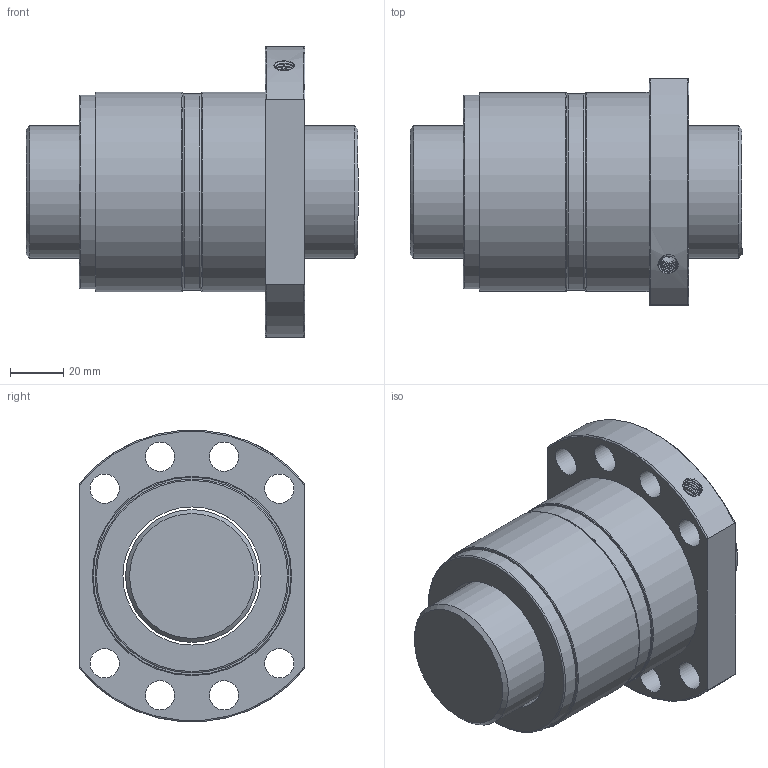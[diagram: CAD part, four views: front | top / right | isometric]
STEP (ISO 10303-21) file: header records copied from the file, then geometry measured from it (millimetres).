
FILE_DESCRIPTION(/* description */ ('Unknown','CAx-IF Rec.Pracs.---Representation and Presentation of Product Manufacturing Information (PMI)---4.0---2014-10-13','CAx-IF Rec.Pracs.---3D Tessellated Geometry---0.4---2014-09-14','2;1'),/* implementation_level */ '2;1');
FILE_NAME(/* name */ 'DFS05005',/* time_stamp */ '2020-12-08T12:00:33+08:00',/* author */ ('Unknown'),/* organization */ ('Unknown'),/* preprocessor_version */ 'ST-DEVELOPER v16.7',/* originating_system */ 'Solid Edge',/* authorisation */ 'Unknown');
FILE_SCHEMA (('AP242_MANAGED_MODEL_BASED_3D_ENGINEERING_MIM_LF { 1 0 10303 442 1 1 4 }'));
Length unit declared in the file: millimetre
Products named in the file (1): DFS05005
Bounding box: 125 x 85 x 109.65 mm (x, y, z)
Volume: 482752.3 mm3; surface area: 77462.5 mm2
Topology: 2 solids, 2 shells, 51 faces, 117 edges, 74 vertices
Faces by surface type: cylinder 22, plane 13, torus 11, cone 3, bspline 2
Full cylindrical faces by diameter (mm): 4 x1, 6.917 x1, 11 x8, 50 x1, 52 x1, 73 x2, 74 x1, 75 x3
Entity records: 3233 total; most frequent: CARTESIAN_POINT 2098, DIRECTION 224, ORIENTED_EDGE 172, AXIS2_PLACEMENT_3D 108, EDGE_LOOP 104, FACE_BOUND 104, EDGE_CURVE 86, VERTEX_POINT 70
